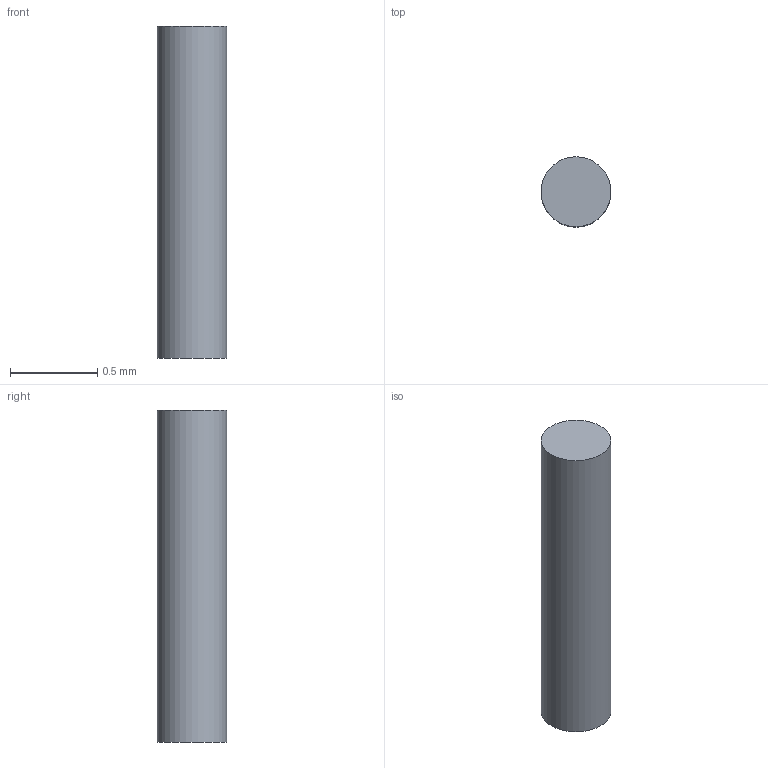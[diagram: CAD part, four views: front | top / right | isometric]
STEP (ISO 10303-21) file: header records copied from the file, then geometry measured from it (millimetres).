
FILE_DESCRIPTION(('Open CASCADE Model'),'2;1');
FILE_NAME('R36_MIC_BARE_CONDUCTOR_4_D0p40','2026-09-15T14:20:45',( 'Author'),('Open CASCADE'),'Open CASCADE STEP processor 7.9', 'build123d','Unknown');
FILE_SCHEMA(('AUTOMOTIVE_DESIGN { 1 0 10303 214 1 1 1 1 }'));
Length unit declared in the file: millimetre
Products named in the file (1): R36_MIC_BARE_CONDUCTOR_4_D0p40
Bounding box: 0.4 x 0.4 x 1.9 mm (x, y, z)
Volume: 0.2 mm3; surface area: 2.6 mm2
Topology: 1 solids, 1 shells, 3 faces, 3 edges, 2 vertices
Faces by surface type: plane 2, cylinder 1
Full cylindrical faces by diameter (mm): 0.4 x1
Entity records: 108 total; most frequent: DIRECTION 19, CARTESIAN_POINT 15, AXIS2_PLACEMENT_3D 6, ORIENTED_EDGE 6, PCURVE 6, DEFINITIONAL_REPRESENTATION 6, LINE 5, VECTOR 5
